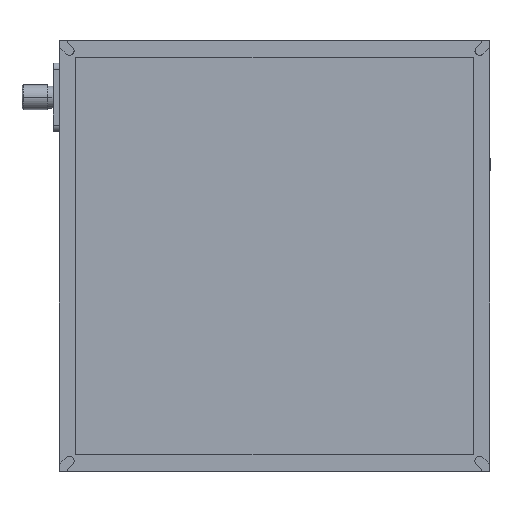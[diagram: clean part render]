
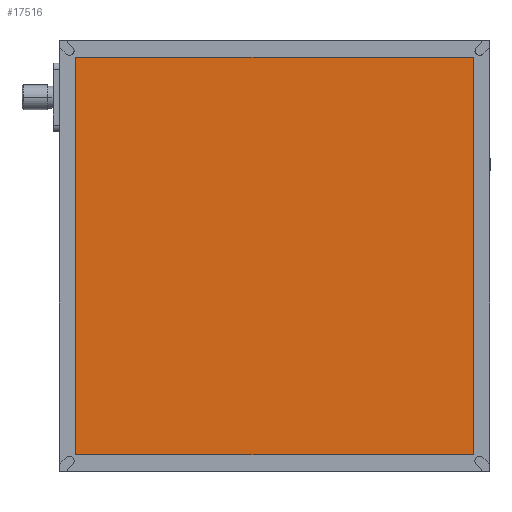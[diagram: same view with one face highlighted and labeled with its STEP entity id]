
A CAD part, top view. The second image highlights one B-rep face of the part: STEP entity #17516.
In plain terms, the highlighted planar face has unit normal (0, 0, 1).
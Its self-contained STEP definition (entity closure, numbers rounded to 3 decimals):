
#7 = VECTOR ( 'NONE', #500, 1000. ) ;
#500 = DIRECTION ( 'NONE',  ( -1., 0., 0. ) ) ;
#1232 = EDGE_CURVE ( 'NONE', #10361, #9324, #11853, .T. ) ;
#1710 = VERTEX_POINT ( 'NONE', #7687 ) ;
#1860 = EDGE_CURVE ( 'NONE', #15109, #1710, #7223, .T. ) ;
#1875 = CARTESIAN_POINT ( 'NONE',  ( 0., 0., 41.85 ) ) ;
#3104 = CARTESIAN_POINT ( 'NONE',  ( 4., 4., 41.85 ) ) ;
#3217 = DIRECTION ( 'NONE',  ( 0., 0., -1. ) ) ;
#4132 = VECTOR ( 'NONE', #5531, 1000. ) ;
#4939 = EDGE_LOOP ( 'NONE', ( #5587, #16329, #10989, #10582 ) ) ;
#5531 = DIRECTION ( 'NONE',  ( 0., -1., 0. ) ) ;
#5587 = ORIENTED_EDGE ( 'NONE', *, *, #15242, .T. ) ;
#5986 = CARTESIAN_POINT ( 'NONE',  ( 0., 196., 41.85 ) ) ;
#6221 = VECTOR ( 'NONE', #6379, 1000. ) ;
#6379 = DIRECTION ( 'NONE',  ( 1., 0., 0. ) ) ;
#7193 = FACE_OUTER_BOUND ( 'NONE', #4939, .T. ) ;
#7223 = LINE ( 'NONE', #5986, #7 ) ;
#7687 = CARTESIAN_POINT ( 'NONE',  ( 4., 196., 41.85 ) ) ;
#9032 = CARTESIAN_POINT ( 'NONE',  ( 0., 4., 41.85 ) ) ;
#9324 = VERTEX_POINT ( 'NONE', #11375 ) ;
#9334 = CARTESIAN_POINT ( 'NONE',  ( 196., 0., 41.85 ) ) ;
#9420 = DIRECTION ( 'NONE',  ( 0., 1., 0. ) ) ;
#9676 = LINE ( 'NONE', #12242, #4132 ) ;
#10025 = DIRECTION ( 'NONE',  ( -1., 0., 0. ) ) ;
#10361 = VERTEX_POINT ( 'NONE', #3104 ) ;
#10582 = ORIENTED_EDGE ( 'NONE', *, *, #1232, .T. ) ;
#10989 = ORIENTED_EDGE ( 'NONE', *, *, #11144, .T. ) ;
#11144 = EDGE_CURVE ( 'NONE', #1710, #10361, #9676, .T. ) ;
#11337 = PLANE ( 'NONE',  #16661 ) ;
#11375 = CARTESIAN_POINT ( 'NONE',  ( 196., 4., 41.85 ) ) ;
#11809 = CARTESIAN_POINT ( 'NONE',  ( 196., 196., 41.85 ) ) ;
#11853 = LINE ( 'NONE', #9032, #6221 ) ;
#12242 = CARTESIAN_POINT ( 'NONE',  ( 4., 0., 41.85 ) ) ;
#12930 = VECTOR ( 'NONE', #9420, 1000. ) ;
#13651 = LINE ( 'NONE', #9334, #12930 ) ;
#15109 = VERTEX_POINT ( 'NONE', #11809 ) ;
#15242 = EDGE_CURVE ( 'NONE', #9324, #15109, #13651, .T. ) ;
#16329 = ORIENTED_EDGE ( 'NONE', *, *, #1860, .T. ) ;
#16661 = AXIS2_PLACEMENT_3D ( 'NONE', #1875, #3217, #10025 ) ;
#17516 = ADVANCED_FACE ( 'NONE', ( #7193 ), #11337, .F. ) ;
